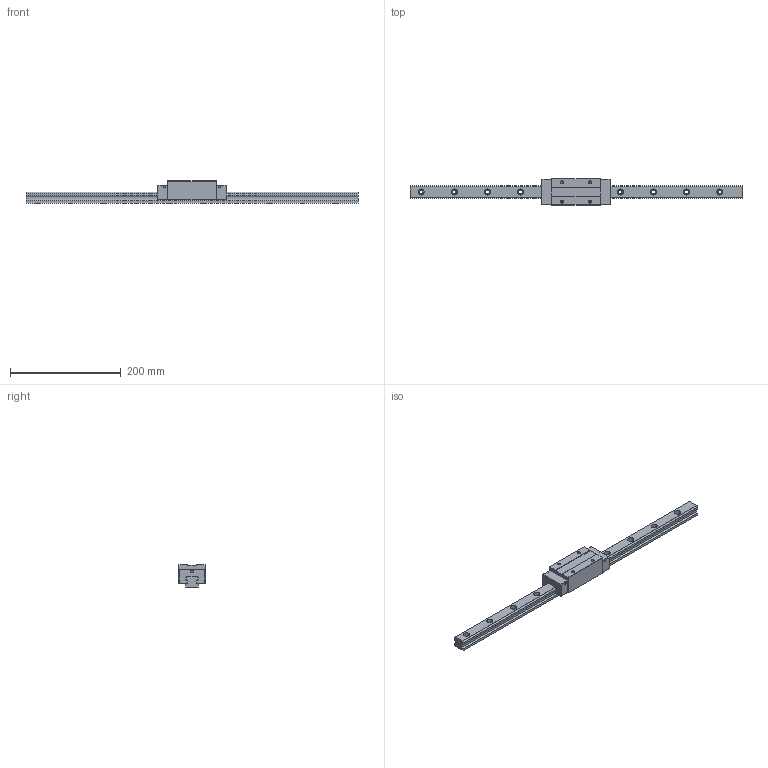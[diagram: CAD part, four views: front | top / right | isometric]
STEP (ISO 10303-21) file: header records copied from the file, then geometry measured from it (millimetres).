
FILE_DESCRIPTION (( 'STEP AP203' ), '1' );
FILE_NAME ('TRH25VE-SZ.STEP', '2024-07-10T02:33:01', ( '' ), ( '' ), 'SwSTEP 2.0', 'SolidWorks 2022', '' );
FILE_SCHEMA (( 'CONFIG_CONTROL_DESIGN' ));
Length unit declared in the file: millimetre
Products named in the file (1): TRH25VE-SZ
Bounding box: 600 x 48 x 40 mm (x, y, z)
Volume: 384999.4 mm3; surface area: 85918.4 mm2
Topology: 2 solids, 2 shells, 200 faces, 520 edges, 336 vertices
Faces by surface type: cylinder 96, plane 88, cone 16
Entity records: 6223 total; most frequent: DIRECTION 1114, CARTESIAN_POINT 1049, ORIENTED_EDGE 1024, EDGE_CURVE 512, AXIS2_PLACEMENT_3D 401, VERTEX_POINT 336, VECTOR 312, LINE 312
